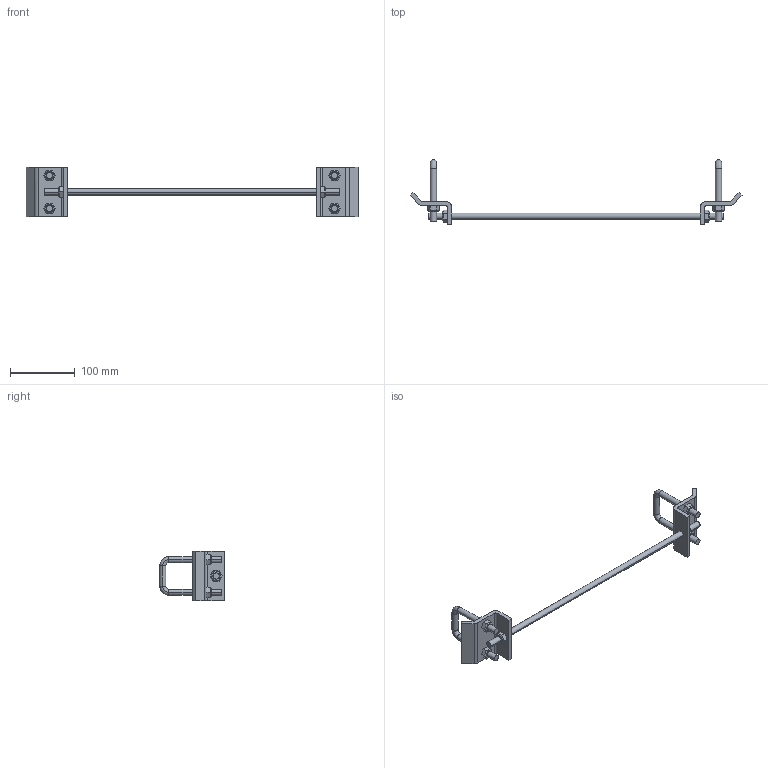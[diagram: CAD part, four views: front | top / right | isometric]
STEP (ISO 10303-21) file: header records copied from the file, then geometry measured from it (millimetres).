
FILE_DESCRIPTION(('TurboCAD Mac Pro'),'Build 980');
FILE_NAME('P2868-18.stp',' ',(''),(''),'ACIS Interop','IMSI','TurboCAD Mac Pro BY IMSI, INCORPORATED');
FILE_SCHEMA(('automotive_design'));
Length unit declared in the file: inch
Products named in the file (11): 1; 2; 3; 4; 5; 6; 7; 8; 9; 10; 11
Bounding box: 513.8 x 100.03 x 76.2 mm (x, y, z)
Volume: 159843.2 mm3; surface area: 66569.1 mm2
Topology: 11 solids, 11 shells, 176 faces, 410 edges, 256 vertices
Faces by surface type: plane 110, bspline 40, cylinder 26
Entity records: 9100 total; most frequent: CARTESIAN_POINT 1837, ORIENTED_EDGE 820, DIRECTION 692, STYLED_ITEM 541, PRESENTATION_STYLE_ASSIGNMENT 541, COLOUR_RGB 541, EDGE_CURVE 410, CURVE_STYLE 354
